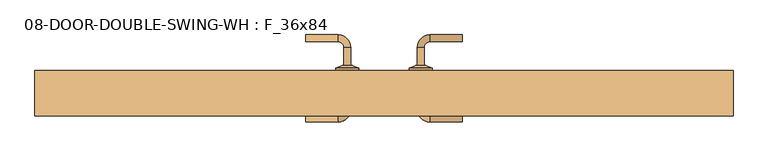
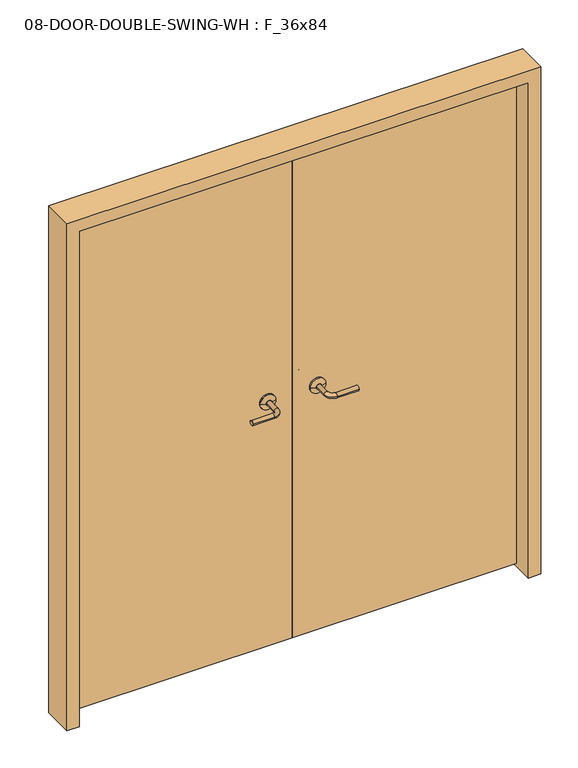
"""IFC4 building model written with IfcOpenShell, lengths in millimetres: door geometry, 08-DOOR-DOUBLE-SWING-WH : F_36x84."""

from ifc_helpers import new_model, si_unit, point, frame, origin, place, context, project, spatial, polyline, circle_curve, ellipse_curve, trimmed, outline, extrude, source, transform, mapped, element, save
from ifc_brep_helpers import plane_surface, cylinder_surface, revolved_surface, advanced_brep


def door_08_door_double_swing_wh_f_36x84_750f74ca(model_context):
    return source(origin(), model_context, "Body", "SolidModel", [
        advanced_brep(
        [(129.4903202, 6.35, 1066.8), (110.4403202, 6.35, 1066.8), (129.4903202, -44.45, 1066.8), (110.4403202, -44.45, 1066.8), (145.3653202, -60.325, 1066.8), (145.3653202, -79.375, 1066.8), (234.2653202, -60.325, 1066.8), (234.2653202, -79.375, 1066.8)],
        [
            (0, 1, circle_curve(frame((119.9653202, 6.35, 1066.8), z_axis=(0.0, 1.0, 0.0), x_axis=(-1.0, 0.0, 0.0)), 9.525)),
            (1, 0, circle_curve(frame((119.9653202, 6.35, 1066.8), z_axis=(0.0, 1.0, 0.0), x_axis=(-1.0, 0.0, 0.0)), 9.525)),
            (0, 2),
            (2, 3, circle_curve(frame((119.9653202, -44.45, 1066.8), z_axis=(0.0, 1.0, 0.0), x_axis=(-1.0, 0.0, 0.0)), 9.525)),
            (3, 1),
            (3, 2, circle_curve(frame((119.9653202, -44.45, 1066.8), z_axis=(0.0, 1.0, 0.0), x_axis=(-1.0, 0.0, 0.0)), 9.525)),
            (4, 5, circle_curve(frame((145.3653202, -69.85, 1066.8), z_axis=(-1.0, 0.0, 0.0), x_axis=(0.0, -1.0, 0.0)), 9.525)),
            (5, 3, circle_curve(frame((145.3653202, -44.45, 1066.8), z_axis=(0.0, 0.0, -1.0), x_axis=(-1.0, 0.0, 0.0)), 34.925)),
            (2, 4, circle_curve(frame((145.3653202, -44.45, 1066.8), z_axis=(0.0, 0.0, 1.0), x_axis=(-1.0, 0.0, 0.0)), 15.875)),
            (5, 4, circle_curve(frame((145.3653202, -69.85, 1066.8), z_axis=(-1.0, 0.0, 0.0), x_axis=(0.0, -1.0, 0.0)), 9.525)),
            (6, 7, circle_curve(frame((234.2653202, -69.85, 1066.8), z_axis=(1.0, 0.0, 0.0), x_axis=(0.0, -1.0, 0.0)), 9.525)),
            (7, 6, circle_curve(frame((234.2653202, -69.85, 1066.8), z_axis=(1.0, 0.0, 0.0), x_axis=(0.0, -1.0, 0.0)), 9.525)),
            (4, 6),
            (7, 5),
        ],
        [
            plane_surface(frame((119.9653202, 6.35, 1066.8), z_axis=(0.0, 1.0, 0.0), x_axis=(0.0, 0.0, 1.0))),
            cylinder_surface(frame((119.9653202, 6.35, 1066.8), z_axis=(0.0, 1.0, 0.0), x_axis=(-1.0, 0.0, 0.0)), 9.525),
            revolved_surface(trimmed(ellipse_curve(frame((119.9653202, -44.45, 1066.8), z_axis=(0.0, -1.0, 0.0), x_axis=(-1.0, 0.0, 0.0)), 9.525, 9.525), [point((110.4403202, -44.45, 1066.8))], [point((129.4903202, -44.45, 1066.8))], True, "CARTESIAN"), (145.3653202, -44.45, 1066.8), (0.0, 0.0, -1.0)),
            revolved_surface(trimmed(ellipse_curve(frame((119.9653202, -44.45, 1066.8), z_axis=(0.0, -1.0, 0.0), x_axis=(-1.0, 0.0, 0.0)), 9.525, 9.525), [point((129.4903202, -44.45, 1066.8))], [point((110.4403202, -44.45, 1066.8))], True, "CARTESIAN"), (145.3653202, -44.45, 1066.8), (0.0, 0.0, -1.0)),
            plane_surface(frame((234.2653202, -69.85, 1066.8), z_axis=(1.0, 0.0, 0.0), x_axis=(0.0, 0.0, 1.0))),
            cylinder_surface(frame((145.3653202, -69.85, 1066.8), z_axis=(-1.0, 0.0, 0.0), x_axis=(0.0, -1.0, 0.0)), 9.525),
        ],
        [
            (0, [[1, 2]]),
            (1, [[3, 4, 5, -1]]),
            (1, [[-5, 6, -3, -2]]),
            (2, [[7, 8, -4, 9]]),
            (3, [[10, -9, -6, -8]]),
            (4, [[11, 12]]),
            (5, [[13, -12, 14, -7]]),
            (5, [[-14, -11, -13, -10]]),
        ],
    ),
        advanced_brep(
        [(119.9653202, 19.05, 1066.8), (151.7153202, 19.05, 1066.8), (88.2153202, 19.05, 1066.8), (151.7153202, 12.7, 1066.8), (88.2153202, 12.7, 1066.8), (132.6653202, 6.35, 1066.8), (107.2653202, 6.35, 1066.8), (119.9653202, 6.35, 1066.8)],
        [
            (0, 1),
            (1, 2, circle_curve(frame((119.9653202, 19.05, 1066.8), z_axis=(0.0, 1.0, 0.0), x_axis=(-1.0, 0.0, 0.0)), 31.75)),
            (2, 0),
            (2, 1, circle_curve(frame((119.9653202, 19.05, 1066.8), z_axis=(0.0, 1.0, 0.0), x_axis=(-1.0, 0.0, 0.0)), 31.75)),
            (1, 3),
            (3, 4, circle_curve(frame((119.9653202, 12.7, 1066.8), z_axis=(0.0, 1.0, 0.0), x_axis=(-1.0, 0.0, 0.0)), 31.75)),
            (4, 2),
            (4, 3, circle_curve(frame((119.9653202, 12.7, 1066.8), z_axis=(0.0, 1.0, 0.0), x_axis=(-1.0, 0.0, 0.0)), 31.75)),
            (3, 5),
            (5, 6, circle_curve(frame((119.9653202, 6.35, 1066.8), z_axis=(0.0, 1.0, 0.0), x_axis=(-1.0, 0.0, 0.0)), 12.7)),
            (6, 4),
            (6, 5, circle_curve(frame((119.9653202, 6.35, 1066.8), z_axis=(0.0, 1.0, 0.0), x_axis=(-1.0, 0.0, 0.0)), 12.7)),
            (5, 7),
            (7, 6),
        ],
        [
            plane_surface(frame((119.9653202, 19.05, 1066.8), z_axis=(0.0, 1.0, 0.0), x_axis=(-1.0, 0.0, 0.0))),
            cylinder_surface(frame((119.9653202, 9.4418504, 1066.8), z_axis=(0.0, 1.0, 0.0), x_axis=(-1.0, 0.0, 0.0)), 31.75),
            revolved_surface(polyline([(107.2653202, 6.35, 1066.8), (88.2153202, 12.7, 1066.8)]), (119.9653202, 9.4418504, 1066.8), (0.0, 1.0, 0.0)),
            plane_surface(frame((119.9653202, 6.35, 1066.8), z_axis=(0.0, -1.0, 0.0), x_axis=(-1.0, 0.0, 0.0))),
        ],
        [
            (0, [[1, 2, 3]]),
            (0, [[-3, 4, -1]]),
            (1, [[5, 6, 7, -2]]),
            (1, [[-7, 8, -5, -4]]),
            (2, [[9, 10, 11, -6]]),
            (2, [[-11, 12, -9, -8]]),
            (3, [[13, 14, -10]]),
            (3, [[-14, -13, -12]]),
        ],
    ),
        advanced_brep(
        [(-92.7596798, 6.35, 1066.8), (-73.7096798, 6.35, 1066.8), (-73.7096798, -44.45, 1066.8), (-92.7596798, -44.45, 1066.8), (-108.6346798, -60.325, 1066.8), (-108.6346798, -79.375, 1066.8), (-197.5346798, -60.325, 1066.8), (-197.5346798, -79.375, 1066.8)],
        [
            (0, 1, circle_curve(frame((-83.2346798, 6.35, 1066.8), z_axis=(0.0, 1.0, 0.0), x_axis=(1.0, 0.0, 0.0)), 9.525)),
            (1, 0, circle_curve(frame((-83.2346798, 6.35, 1066.8), z_axis=(0.0, 1.0, 0.0), x_axis=(1.0, 0.0, 0.0)), 9.525)),
            (1, 2),
            (2, 3, circle_curve(frame((-83.2346798, -44.45, 1066.8), z_axis=(0.0, 1.0, 0.0), x_axis=(1.0, 0.0, 0.0)), 9.525)),
            (3, 0),
            (3, 2, circle_curve(frame((-83.2346798, -44.45, 1066.8), z_axis=(0.0, 1.0, 0.0), x_axis=(1.0, 0.0, 0.0)), 9.525)),
            (4, 3, circle_curve(frame((-108.6346798, -44.45, 1066.8), z_axis=(0.0, 0.0, 1.0), x_axis=(1.0, 0.0, 0.0)), 15.875)),
            (2, 5, circle_curve(frame((-108.6346798, -44.45, 1066.8), z_axis=(0.0, 0.0, -1.0), x_axis=(1.0, 0.0, 0.0)), 34.925)),
            (5, 4, circle_curve(frame((-108.6346798, -69.85, 1066.8), z_axis=(1.0, 0.0, 0.0), x_axis=(0.0, -1.0, 0.0)), 9.525)),
            (4, 5, circle_curve(frame((-108.6346798, -69.85, 1066.8), z_axis=(1.0, 0.0, 0.0), x_axis=(0.0, -1.0, 0.0)), 9.525)),
            (6, 7, circle_curve(frame((-197.5346798, -69.85, 1066.8), z_axis=(-1.0, 0.0, 0.0), x_axis=(0.0, -1.0, 0.0)), 9.525)),
            (7, 6, circle_curve(frame((-197.5346798, -69.85, 1066.8), z_axis=(-1.0, 0.0, 0.0), x_axis=(0.0, -1.0, 0.0)), 9.525)),
            (5, 7),
            (6, 4),
        ],
        [
            plane_surface(frame((-83.2346798, 6.35, 1066.8), z_axis=(0.0, 1.0, 0.0), x_axis=(0.0, 0.0, 1.0))),
            cylinder_surface(frame((-83.2346798, 6.35, 1066.8), z_axis=(0.0, 1.0, 0.0), x_axis=(1.0, 0.0, 0.0)), 9.525),
            revolved_surface(trimmed(ellipse_curve(frame((-83.2346798, -44.45, 1066.8), z_axis=(0.0, 1.0, 0.0), x_axis=(1.0, 0.0, 0.0)), 9.525, 9.525), [point((-73.7096798, -44.45, 1066.8))], [point((-92.7596798, -44.45, 1066.8))], True, "CARTESIAN"), (-108.6346798, -44.45, 1066.8), (0.0, 0.0, -1.0)),
            revolved_surface(trimmed(ellipse_curve(frame((-83.2346798, -44.45, 1066.8), z_axis=(0.0, 1.0, 0.0), x_axis=(1.0, 0.0, 0.0)), 9.525, 9.525), [point((-92.7596798, -44.45, 1066.8))], [point((-73.7096798, -44.45, 1066.8))], True, "CARTESIAN"), (-108.6346798, -44.45, 1066.8), (0.0, 0.0, -1.0)),
            plane_surface(frame((-197.5346798, -69.85, 1066.8), z_axis=(-1.0, 0.0, 0.0), x_axis=(0.0, 0.0, 1.0))),
            cylinder_surface(frame((-108.6346798, -69.85, 1066.8), z_axis=(1.0, 0.0, 0.0), x_axis=(0.0, -1.0, 0.0)), 9.525),
        ],
        [
            (0, [[1, 2]]),
            (1, [[-2, 3, 4, 5]]),
            (1, [[-1, -5, 6, -3]]),
            (2, [[7, -4, 8, 9]]),
            (3, [[-8, -6, -7, 10]]),
            (4, [[11, 12]]),
            (5, [[-9, 13, -11, 14]]),
            (5, [[-10, -14, -12, -13]]),
        ],
    ),
        advanced_brep(
        [(-83.2346798, 19.05, 1066.8), (-51.4846798, 19.05, 1066.8), (-114.9846798, 19.05, 1066.8), (-51.4846798, 12.7, 1066.8), (-114.9846798, 12.7, 1066.8), (-70.5346798, 6.35, 1066.8), (-95.9346798, 6.35, 1066.8), (-83.2346798, 6.35, 1066.8)],
        [
            (0, 1),
            (1, 2, circle_curve(frame((-83.2346798, 19.05, 1066.8), z_axis=(0.0, 1.0, 0.0), x_axis=(1.0, 0.0, 0.0)), 31.75)),
            (2, 0),
            (2, 1, circle_curve(frame((-83.2346798, 19.05, 1066.8), z_axis=(0.0, 1.0, 0.0), x_axis=(1.0, 0.0, 0.0)), 31.75)),
            (1, 3),
            (3, 4, circle_curve(frame((-83.2346798, 12.7, 1066.8), z_axis=(0.0, 1.0, 0.0), x_axis=(1.0, 0.0, 0.0)), 31.75)),
            (4, 2),
            (4, 3, circle_curve(frame((-83.2346798, 12.7, 1066.8), z_axis=(0.0, 1.0, 0.0), x_axis=(1.0, 0.0, 0.0)), 31.75)),
            (3, 5),
            (5, 6, circle_curve(frame((-83.2346798, 6.35, 1066.8), z_axis=(0.0, 1.0, 0.0), x_axis=(1.0, 0.0, 0.0)), 12.7)),
            (6, 4),
            (6, 5, circle_curve(frame((-83.2346798, 6.35, 1066.8), z_axis=(0.0, 1.0, 0.0), x_axis=(1.0, 0.0, 0.0)), 12.7)),
            (5, 7),
            (7, 6),
        ],
        [
            plane_surface(frame((-83.2346798, 19.05, 1066.8), z_axis=(0.0, 1.0, 0.0), x_axis=(1.0, 0.0, 0.0))),
            cylinder_surface(frame((-83.2346798, 9.4418504, 1066.8), z_axis=(0.0, 1.0, 0.0), x_axis=(1.0, 0.0, 0.0)), 31.75),
            revolved_surface(polyline([(-70.5346798, 6.35, 1066.8), (-51.4846798, 12.7, 1066.8)]), (-83.2346798, 9.4418504, 1066.8), (0.0, 1.0, 0.0)),
            plane_surface(frame((-83.2346798, 6.35, 1066.8), z_axis=(0.0, -1.0, 0.0), x_axis=(1.0, 0.0, 0.0))),
        ],
        [
            (0, [[1, 2, 3]]),
            (0, [[-3, 4, -1]]),
            (1, [[-2, 5, 6, 7]]),
            (1, [[-4, -7, 8, -5]]),
            (2, [[-6, 9, 10, 11]]),
            (2, [[-8, -11, 12, -9]]),
            (3, [[-10, 13, 14]]),
            (3, [[-12, -14, -13]]),
        ],
    ),
        advanced_brep(
        [(110.4403202, 76.2, 1066.8), (129.4903202, 76.2, 1066.8), (129.4903202, 127.0, 1066.8), (110.4403202, 127.0, 1066.8), (145.3653202, 142.875, 1066.8), (145.3653202, 161.925, 1066.8), (234.2653202, 161.925, 1066.8), (234.2653202, 142.875, 1066.8)],
        [
            (0, 1, circle_curve(frame((119.9653202, 76.2, 1066.8), z_axis=(0.0, -1.0, 0.0), x_axis=(1.0, 0.0, 0.0)), 9.525)),
            (1, 0, circle_curve(frame((119.9653202, 76.2, 1066.8), z_axis=(0.0, -1.0, 0.0), x_axis=(1.0, 0.0, 0.0)), 9.525)),
            (1, 2),
            (2, 3, circle_curve(frame((119.9653202, 127.0, 1066.8), z_axis=(0.0, -1.0, 0.0), x_axis=(1.0, 0.0, 0.0)), 9.525)),
            (3, 0),
            (3, 2, circle_curve(frame((119.9653202, 127.0, 1066.8), z_axis=(0.0, -1.0, 0.0), x_axis=(1.0, 0.0, 0.0)), 9.525)),
            (4, 5, circle_curve(frame((145.3653202, 152.4, 1066.8), z_axis=(-1.0, 0.0, 0.0), x_axis=(0.0, -1.0, 0.0)), 9.525)),
            (5, 3, circle_curve(frame((145.3653202, 127.0, 1066.8), z_axis=(0.0, 0.0, 1.0), x_axis=(-1.0, 0.0, 0.0)), 34.925)),
            (2, 4, circle_curve(frame((145.3653202, 127.0, 1066.8), z_axis=(0.0, 0.0, -1.0), x_axis=(-1.0, 0.0, 0.0)), 15.875)),
            (5, 4, circle_curve(frame((145.3653202, 152.4, 1066.8), z_axis=(-1.0, 0.0, 0.0), x_axis=(0.0, -1.0, 0.0)), 9.525)),
            (6, 7, circle_curve(frame((234.2653202, 152.4, 1066.8), z_axis=(1.0, 0.0, 0.0), x_axis=(0.0, -1.0, 0.0)), 9.525)),
            (7, 6, circle_curve(frame((234.2653202, 152.4, 1066.8), z_axis=(1.0, 0.0, 0.0), x_axis=(0.0, -1.0, 0.0)), 9.525)),
            (4, 7),
            (6, 5),
        ],
        [
            plane_surface(frame((119.9653202, 76.2, 1066.8), z_axis=(0.0, -1.0, 0.0), x_axis=(0.0, 0.0, 1.0))),
            cylinder_surface(frame((119.9653202, 76.2, 1066.8), z_axis=(0.0, -1.0, 0.0), x_axis=(1.0, 0.0, 0.0)), 9.525),
            revolved_surface(trimmed(ellipse_curve(frame((119.9653202, 127.0, 1066.8), z_axis=(0.0, 1.0, 0.0), x_axis=(1.0, 0.0, 0.0)), 9.525, 9.525), [point((110.4403202, 127.0, 1066.8))], [point((129.4903202, 127.0, 1066.8))], True, "CARTESIAN"), (145.3653202, 127.0, 1066.8), (0.0, 0.0, 1.0)),
            revolved_surface(trimmed(ellipse_curve(frame((119.9653202, 127.0, 1066.8), z_axis=(0.0, 1.0, 0.0), x_axis=(1.0, 0.0, 0.0)), 9.525, 9.525), [point((129.4903202, 127.0, 1066.8))], [point((110.4403202, 127.0, 1066.8))], True, "CARTESIAN"), (145.3653202, 127.0, 1066.8), (0.0, 0.0, 1.0)),
            plane_surface(frame((234.2653202, 152.4, 1066.8), z_axis=(1.0, 0.0, 0.0), x_axis=(0.0, 0.0, 1.0))),
            cylinder_surface(frame((145.3653202, 152.4, 1066.8), z_axis=(-1.0, 0.0, 0.0), x_axis=(0.0, -1.0, 0.0)), 9.525),
        ],
        [
            (0, [[1, 2]]),
            (1, [[3, 4, 5, -2]]),
            (1, [[-5, 6, -3, -1]]),
            (2, [[7, 8, -4, 9]]),
            (3, [[10, -9, -6, -8]]),
            (4, [[11, 12]]),
            (5, [[13, -11, 14, -7]]),
            (5, [[-14, -12, -13, -10]]),
        ],
    ),
        advanced_brep(
        [(151.7153202, 63.5, 1066.8), (119.9653202, 63.5, 1066.8), (88.2153202, 63.5, 1066.8), (151.7153202, 69.85, 1066.8), (88.2153202, 69.85, 1066.8), (132.6653202, 76.2, 1066.8), (107.2653202, 76.2, 1066.8), (119.9653202, 76.2, 1066.8)],
        [
            (0, 1),
            (1, 2),
            (2, 0, circle_curve(frame((119.9653202, 63.5, 1066.8), z_axis=(0.0, -1.0, 0.0), x_axis=(-1.0, 0.0, 0.0)), 31.75)),
            (0, 2, circle_curve(frame((119.9653202, 63.5, 1066.8), z_axis=(0.0, -1.0, 0.0), x_axis=(-1.0, 0.0, 0.0)), 31.75)),
            (3, 0),
            (2, 4),
            (4, 3, circle_curve(frame((119.9653202, 69.85, 1066.8), z_axis=(0.0, -1.0, 0.0), x_axis=(-1.0, 0.0, 0.0)), 31.75)),
            (3, 4, circle_curve(frame((119.9653202, 69.85, 1066.8), z_axis=(0.0, -1.0, 0.0), x_axis=(-1.0, 0.0, 0.0)), 31.75)),
            (5, 3),
            (4, 6),
            (6, 5, circle_curve(frame((119.9653202, 76.2, 1066.8), z_axis=(0.0, -1.0, 0.0), x_axis=(-1.0, 0.0, 0.0)), 12.7)),
            (5, 6, circle_curve(frame((119.9653202, 76.2, 1066.8), z_axis=(0.0, -1.0, 0.0), x_axis=(-1.0, 0.0, 0.0)), 12.7)),
            (7, 5),
            (6, 7),
        ],
        [
            plane_surface(frame((119.9653202, 63.5, 1066.8), z_axis=(0.0, -1.0, 0.0), x_axis=(-1.0, 0.0, 0.0))),
            cylinder_surface(frame((119.9653202, 73.1081496, 1066.8), z_axis=(0.0, 1.0, 0.0), x_axis=(-1.0, 0.0, 0.0)), 31.75),
            revolved_surface(polyline([(88.2153202, 69.85, 1066.8), (107.2653202, 76.2, 1066.8)]), (119.9653202, 73.1081496, 1066.8), (0.0, 1.0, 0.0)),
            plane_surface(frame((119.9653202, 76.2, 1066.8), z_axis=(0.0, 1.0, 0.0), x_axis=(-1.0, 0.0, 0.0))),
        ],
        [
            (0, [[1, 2, 3]]),
            (0, [[-2, -1, 4]]),
            (1, [[5, -3, 6, 7]]),
            (1, [[-6, -4, -5, 8]]),
            (2, [[9, -7, 10, 11]]),
            (2, [[-10, -8, -9, 12]]),
            (3, [[13, -11, 14]]),
            (3, [[-14, -12, -13]]),
        ],
    ),
        advanced_brep(
        [(-73.7096798, 76.2, 1066.8), (-92.7596798, 76.2, 1066.8), (-73.7096798, 127.0, 1066.8), (-92.7596798, 127.0, 1066.8), (-108.6346798, 142.875, 1066.8), (-108.6346798, 161.925, 1066.8), (-197.5346798, 161.925, 1066.8), (-197.5346798, 142.875, 1066.8)],
        [
            (0, 1, circle_curve(frame((-83.2346798, 76.2, 1066.8), z_axis=(0.0, -1.0, 0.0), x_axis=(-1.0, 0.0, 0.0)), 9.525)),
            (1, 0, circle_curve(frame((-83.2346798, 76.2, 1066.8), z_axis=(0.0, -1.0, 0.0), x_axis=(-1.0, 0.0, 0.0)), 9.525)),
            (0, 2),
            (2, 3, circle_curve(frame((-83.2346798, 127.0, 1066.8), z_axis=(0.0, -1.0, 0.0), x_axis=(-1.0, 0.0, 0.0)), 9.525)),
            (3, 1),
            (3, 2, circle_curve(frame((-83.2346798, 127.0, 1066.8), z_axis=(0.0, -1.0, 0.0), x_axis=(-1.0, 0.0, 0.0)), 9.525)),
            (4, 3, circle_curve(frame((-108.6346798, 127.0, 1066.8), z_axis=(0.0, 0.0, -1.0), x_axis=(1.0, 0.0, 0.0)), 15.875)),
            (2, 5, circle_curve(frame((-108.6346798, 127.0, 1066.8), z_axis=(0.0, 0.0, 1.0), x_axis=(1.0, 0.0, 0.0)), 34.925)),
            (5, 4, circle_curve(frame((-108.6346798, 152.4, 1066.8), z_axis=(1.0, 0.0, 0.0), x_axis=(0.0, -1.0, 0.0)), 9.525)),
            (4, 5, circle_curve(frame((-108.6346798, 152.4, 1066.8), z_axis=(1.0, 0.0, 0.0), x_axis=(0.0, -1.0, 0.0)), 9.525)),
            (6, 7, circle_curve(frame((-197.5346798, 152.4, 1066.8), z_axis=(-1.0, 0.0, 0.0), x_axis=(0.0, -1.0, 0.0)), 9.525)),
            (7, 6, circle_curve(frame((-197.5346798, 152.4, 1066.8), z_axis=(-1.0, 0.0, 0.0), x_axis=(0.0, -1.0, 0.0)), 9.525)),
            (5, 6),
            (7, 4),
        ],
        [
            plane_surface(frame((-83.2346798, 76.2, 1066.8), z_axis=(0.0, -1.0, 0.0), x_axis=(0.0, 0.0, 1.0))),
            cylinder_surface(frame((-83.2346798, 76.2, 1066.8), z_axis=(0.0, -1.0, 0.0), x_axis=(-1.0, 0.0, 0.0)), 9.525),
            revolved_surface(trimmed(ellipse_curve(frame((-83.2346798, 127.0, 1066.8), z_axis=(0.0, -1.0, 0.0), x_axis=(-1.0, 0.0, 0.0)), 9.525, 9.525), [point((-73.7096798, 127.0, 1066.8))], [point((-92.7596798, 127.0, 1066.8))], True, "CARTESIAN"), (-108.6346798, 127.0, 1066.8), (0.0, 0.0, 1.0)),
            revolved_surface(trimmed(ellipse_curve(frame((-83.2346798, 127.0, 1066.8), z_axis=(0.0, -1.0, 0.0), x_axis=(-1.0, 0.0, 0.0)), 9.525, 9.525), [point((-92.7596798, 127.0, 1066.8))], [point((-73.7096798, 127.0, 1066.8))], True, "CARTESIAN"), (-108.6346798, 127.0, 1066.8), (0.0, 0.0, 1.0)),
            plane_surface(frame((-197.5346798, 152.4, 1066.8), z_axis=(-1.0, 0.0, 0.0), x_axis=(0.0, 0.0, 1.0))),
            cylinder_surface(frame((-108.6346798, 152.4, 1066.8), z_axis=(1.0, 0.0, 0.0), x_axis=(0.0, -1.0, 0.0)), 9.525),
        ],
        [
            (0, [[1, 2]]),
            (1, [[-1, 3, 4, 5]]),
            (1, [[-2, -5, 6, -3]]),
            (2, [[7, -4, 8, 9]]),
            (3, [[-8, -6, -7, 10]]),
            (4, [[11, 12]]),
            (5, [[-9, 13, -12, 14]]),
            (5, [[-10, -14, -11, -13]]),
        ],
    ),
        advanced_brep(
        [(-114.9846798, 63.5, 1066.8), (-51.4846798, 63.5, 1066.8), (-83.2346798, 63.5, 1066.8), (-114.9846798, 69.85, 1066.8), (-51.4846798, 69.85, 1066.8), (-95.9346798, 76.2, 1066.8), (-70.5346798, 76.2, 1066.8), (-83.2346798, 76.2, 1066.8)],
        [
            (0, 1, circle_curve(frame((-83.2346798, 63.5, 1066.8), z_axis=(0.0, -1.0, 0.0), x_axis=(1.0, 0.0, 0.0)), 31.75)),
            (1, 2),
            (2, 0),
            (1, 0, circle_curve(frame((-83.2346798, 63.5, 1066.8), z_axis=(0.0, -1.0, 0.0), x_axis=(1.0, 0.0, 0.0)), 31.75)),
            (3, 4, circle_curve(frame((-83.2346798, 69.85, 1066.8), z_axis=(0.0, -1.0, 0.0), x_axis=(1.0, 0.0, 0.0)), 31.75)),
            (4, 1),
            (0, 3),
            (4, 3, circle_curve(frame((-83.2346798, 69.85, 1066.8), z_axis=(0.0, -1.0, 0.0), x_axis=(1.0, 0.0, 0.0)), 31.75)),
            (5, 6, circle_curve(frame((-83.2346798, 76.2, 1066.8), z_axis=(0.0, -1.0, 0.0), x_axis=(1.0, 0.0, 0.0)), 12.7)),
            (6, 4),
            (3, 5),
            (6, 5, circle_curve(frame((-83.2346798, 76.2, 1066.8), z_axis=(0.0, -1.0, 0.0), x_axis=(1.0, 0.0, 0.0)), 12.7)),
            (7, 6),
            (5, 7),
        ],
        [
            plane_surface(frame((-83.2346798, 63.5, 1066.8), z_axis=(0.0, -1.0, 0.0), x_axis=(1.0, 0.0, 0.0))),
            cylinder_surface(frame((-83.2346798, 73.1081496, 1066.8), z_axis=(0.0, 1.0, 0.0), x_axis=(1.0, 0.0, 0.0)), 31.75),
            revolved_surface(polyline([(-51.4846798, 69.85, 1066.8), (-70.5346798, 76.2, 1066.8)]), (-83.2346798, 73.1081496, 1066.8), (0.0, 1.0, 0.0)),
            plane_surface(frame((-83.2346798, 76.2, 1066.8), z_axis=(0.0, 1.0, 0.0), x_axis=(1.0, 0.0, 0.0))),
        ],
        [
            (0, [[1, 2, 3]]),
            (0, [[4, -3, -2]]),
            (1, [[5, 6, -1, 7]]),
            (1, [[8, -7, -4, -6]]),
            (2, [[9, 10, -5, 11]]),
            (2, [[12, -11, -8, -10]]),
            (3, [[13, -9, 14]]),
            (3, [[-14, -12, -13]]),
        ],
    ),
        extrude(outline(polyline([(18.3653202, 19.05), (18.3653202, 63.5), (932.7653202, 63.5), (932.7653202, 19.05), (18.3653202, 19.05)])), frame((0.0, 0.0, 12.7), z_axis=(0.0, 0.0, 1.0), x_axis=(1.0, 0.0, 0.0)), (0.0, 0.0, 1.0), 2120.9),
        extrude(outline(polyline([(18.3653202, 19.05), (-896.0346798, 19.05), (-896.0346798, 63.5), (18.3653202, 63.5), (18.3653202, 19.05)])), frame((0.0, 0.0, 12.7), z_axis=(0.0, 0.0, 1.0), x_axis=(1.0, 0.0, 0.0)), (0.0, 0.0, 1.0), 2120.9),
        extrude(outline(polyline([(0.0, 932.7653202), (0.0, 983.5653202), (2184.4, 983.5653202), (2184.4, -946.8346798), (0.0, -946.8346798), (0.0, -896.0346798), (2133.6, -896.0346798), (2133.6, 932.7653202), (0.0, 932.7653202)])), frame((0.0, -63.5, 0.0), z_axis=(0.0, 1.0, 0.0), x_axis=(0.0, 0.0, 1.0)), (0.0, 0.0, 1.0), 127.0),
    ])


if __name__ == "__main__":
    model = new_model("IFC4")
    model_context = context("Model", 3, world=origin())
    ifc_project = project(units=[si_unit("LENGTHUNIT", "METRE", prefix="MILLI")], contexts=[model_context])
    site = spatial("IfcSite", under=ifc_project)
    building = spatial("IfcBuilding", under=site)
    placement = place(None, origin())
    door_08_door_double_swing_wh_f_36x84_shape = door_08_door_double_swing_wh_f_36x84_750f74ca(model_context)
    element("IfcDoor", 1, ObjectType="08-DOOR-DOUBLE-SWING-WH : F_36x84", at=placement, inside=building, context=model_context, shape_type="MappedRepresentation", body=[
        mapped(door_08_door_double_swing_wh_f_36x84_shape, transform((0.0, 0.0, 0.0), x_axis=(1.0, 0.0, 0.0), y_axis=(0.0, 1.0, 0.0), z_axis=(0.0, 0.0, 1.0))),
    ])
    save(model, "model.ifc")
